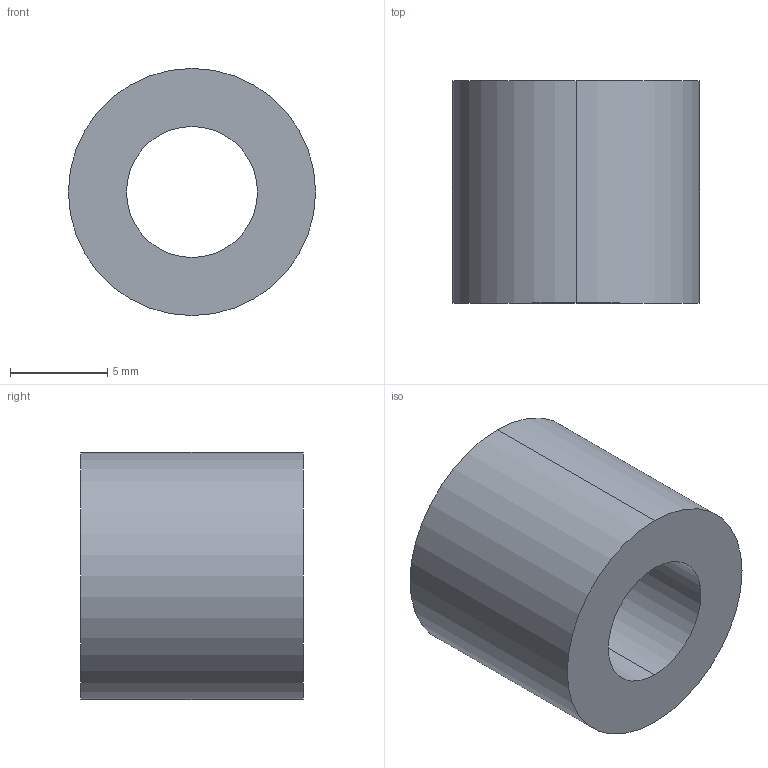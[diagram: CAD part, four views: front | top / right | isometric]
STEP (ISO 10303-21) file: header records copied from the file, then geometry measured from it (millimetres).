
FILE_DESCRIPTION (( 'STEP AP203' ), '1' );
FILE_NAME ('Lever Spacer.STEP', '2017-11-08T01:07:21', ( '' ), ( '' ), 'SwSTEP 2.0', 'SolidWorks 2016', '' );
FILE_SCHEMA (( 'CONFIG_CONTROL_DESIGN' ));
Length unit declared in the file: inch
Products named in the file (1): Lever Spacer
Bounding box: 12.7 x 11.43 x 12.7 mm (x, y, z)
Volume: 1041.2 mm3; surface area: 879.9 mm2
Topology: 1 solids, 1 shells, 6 faces, 12 edges, 8 vertices
Faces by surface type: cylinder 4, plane 2
Entity records: 247 total; most frequent: DIRECTION 34, CARTESIAN_POINT 27, ORIENTED_EDGE 24, AXIS2_PLACEMENT_3D 15, EDGE_CURVE 12, CIRCLE 8, VERTEX_POINT 8, EDGE_LOOP 8
